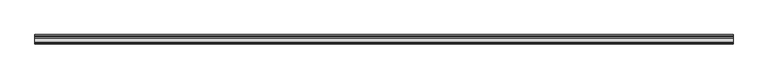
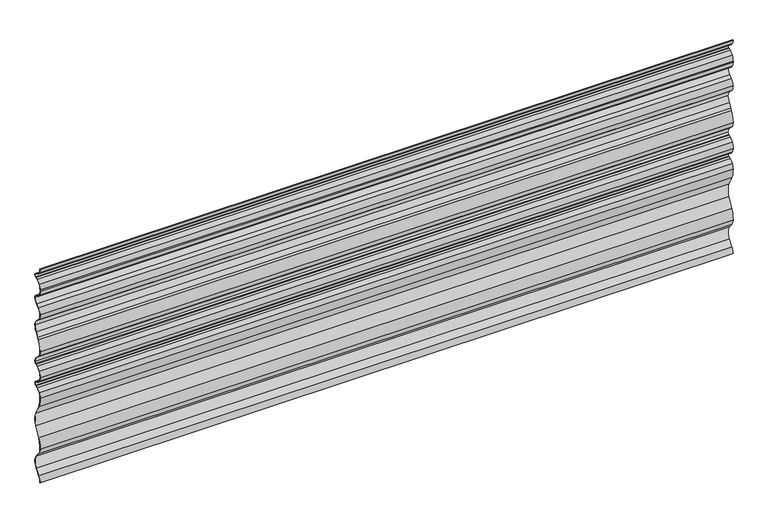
"""IFC4 building model written with IfcOpenShell, lengths in millimetres: plate geometry, Ritmica Horizontal 928 : Ritmica Horizontal 928."""

from ifc_helpers import new_model, si_unit, frame, origin, place, context, project, spatial, polyline, circle_curve, source, transform, mapped, element, save
from ifc_brep_helpers import plane_surface, cylinder_surface, revolved_surface, advanced_brep


def plate_13dd3e1a(model_context):
    return source(origin(), model_context, "Body", "AdvancedBrep", [
        advanced_brep(
        [(-1422.0, 6.5092615, 908.0620129), (-1422.0, 21.2621067, 895.6153968), (-1422.0, 28.45755, 892.7364297), (-1422.0, 31.9226364, 891.0770661), (-1422.0, 31.9284533, 875.0954695), (-1422.0, 28.4645758, 873.4335839), (-1422.0, 21.2712303, 870.5493796), (-1422.0, 6.5274495, 858.0920274), (-1422.0, 0.7421798, 836.9983174), (-1422.0, 0.7421798, 831.6596456), (-1422.0, 6.5447465, 810.5701527), (-1422.0, 21.2975918, 798.1235366), (-1422.0, 28.493035, 795.2445695), (-1422.0, 31.9581214, 793.5852059), (-1422.0, 36.9921573, 785.5962388), (-1422.0, 24.9656186, 760.6206134), (-1422.0, 12.9828956, 751.0704574), (-1422.0, 1.0048783, 728.5919745), (-1422.0, 13.0090533, 701.127971), (-1422.0, 24.9992939, 690.0241978), (-1422.0, 37.0440106, 665.0573339), (-1422.0, 28.6299997, 638.3240963), (-1422.0, 17.4991449, 620.9910926), (-1422.0, 13.1043036, 613.5575548), (-1422.0, 0.921776, 569.3793833), (-1422.0, 12.9259511, 541.9153798), (-1422.0, 24.9161915, 530.8116067), (-1422.0, 36.9609087, 505.8415328), (-1422.0, 31.9326896, 497.8521133), (-1422.0, 28.4688119, 496.1902275), (-1422.0, 21.2754341, 493.3060102), (-1422.0, 6.5316868, 480.8486726), (-1422.0, 0.8337564, 457.0856569), (-1422.0, 6.3430179, 437.5469103), (-1422.0, 21.0958632, 425.1002943), (-1422.0, 28.2913064, 422.2213272), (-1422.0, 31.7563928, 420.5619636), (-1422.0, 31.7622098, 404.580367), (-1422.0, 28.2983323, 402.9184814), (-1422.0, 21.1049867, 400.034277), (-1422.0, 6.361206, 387.5769248), (-1422.0, 0.8661693, 368.0341733), (-1422.0, 10.0476711, 324.2892209), (-1422.0, 30.4443377, 283.7581494), (-1422.0, 30.4639577, 229.8542794), (-1422.0, 10.0968014, 189.3083707), (-1422.0, 0.9471466, 145.5567461), (-1422.0, 9.5590077, 121.7925982), (-1422.0, 28.254799, 99.3683726), (-1422.0, 28.274038, 46.5109184), (-1422.0, 9.5945757, 23.7707747), (-1422.0, 1.0000163, 0.0), (-1422.0, 1.63e-05, 0.0), (-1422.0, 8.826039, 24.4105804), (-1422.0, 27.4885473, 47.1303588), (-1422.0, 27.4697594, 98.7483605), (-1422.0, 8.790937, 121.1522332), (-1422.0, -0.0528427, 145.5386154), (-1422.0, 9.1993025, 189.7494732), (-1422.0, 29.5703625, 230.3031531), (-1422.0, 29.5510695, 283.3086253), (-1422.0, 9.1504935, 323.8474651), (-1422.0, -0.133833, 368.0515751), (-1422.0, 5.5079347, 388.0983921), (-1422.0, 20.7330524, 400.9625361), (-1422.0, 27.895533, 403.834365), (-1422.0, 31.3296428, 405.4819688), (-1422.0, 31.3244823, 419.6600471), (-1422.0, 27.889174, 421.3051505), (-1422.0, 20.7246046, 424.1717647), (-1422.0, 5.4901265, 437.024822), (-1422.0, -0.1662181, 457.0529178), (-1422.0, 5.6750593, 481.3646468), (-1422.0, 20.9034647, 494.2342551), (-1422.0, 28.0660127, 497.1061111), (-1422.0, 31.5001226, 498.7537151), (-1422.0, 35.9609087, 505.841531), (-1422.0, 24.2645169, 530.052163), (-1422.0, 12.2464871, 541.1816709), (-1422.0, -0.0782183, 569.3680226), (-1422.0, 12.2502128, 614.0778463), (-1422.0, 16.6477304, 621.5159109), (-1422.0, 27.7982686, 638.8795656), (-1422.0, 36.04401, 665.0587755), (-1422.0, 24.3475224, 689.2648438), (-1422.0, 12.3295893, 700.3942621), (-1422.0, 0.0048783, 728.5916105), (-1422.0, 12.391292, 751.8777021), (-1422.0, 24.342358, 761.4026277), (-1422.0, 35.9921573, 785.5958749), (-1422.0, 31.5262109, 792.6832895), (-1422.0, 28.0909026, 794.3283929), (-1422.0, 20.9248539, 797.1955989), (-1422.0, 5.6893168, 810.0521734), (-1422.0, -0.2558769, 831.6592816), (-1422.0, -0.2578202, 836.9981365), (-1422.0, 5.6708241, 858.6080051), (-1422.0, 20.8992959, 871.4776387), (-1422.0, 28.0617766, 874.3494676), (-1422.0, 31.4958863, 875.9970713), (-1422.0, 31.4907258, 890.1751497), (-1422.0, 28.0554176, 891.8202531), (-1422.0, 20.8908482, 894.6868673), (-1422.0, 5.6563701, 907.5399245), (-1422.0, 0.0, 927.600395), (-1422.0, 1.0000001, 927.600395), (1422.0, 6.5092615, 908.0620129), (1422.0, 1.0000001, 927.600395), (1422.0, 0.0, 927.600395), (1422.0, 5.6563701, 907.5399245), (1422.0, 20.8908482, 894.6868673), (1422.0, 28.0554176, 891.8202531), (1422.0, 31.4907258, 890.1751497), (1422.0, 31.4958863, 875.9970713), (1422.0, 28.0617766, 874.3494676), (1422.0, 20.8992959, 871.4776387), (1422.0, 5.6708241, 858.6080051), (1422.0, -0.2578202, 836.9981365), (1422.0, -0.2578202, 831.6596456), (1422.0, 5.6893168, 810.0521734), (1422.0, 20.9248539, 797.1955989), (1422.0, 28.0909026, 794.3283929), (1422.0, 31.5262109, 792.6832895), (1422.0, 35.9921573, 785.5958749), (1422.0, 24.342358, 761.4026277), (1422.0, 12.391292, 751.8777021), (1422.0, 0.0048783, 728.5916105), (1422.0, 12.3295893, 700.3942621), (1422.0, 24.3475224, 689.2648438), (1422.0, 36.04401, 665.0587755), (1422.0, 27.7982686, 638.8795656), (1422.0, 16.6477304, 621.5159109), (1422.0, 12.2502128, 614.0778463), (1422.0, -0.0782183, 569.3680226), (1422.0, 12.2464871, 541.1816709), (1422.0, 24.2645169, 530.052163), (1422.0, 35.9609087, 505.841531), (1422.0, 31.5001226, 498.7537151), (1422.0, 28.0660127, 497.1061111), (1422.0, 20.9034647, 494.2342551), (1422.0, 5.6750593, 481.3646468), (1422.0, -0.1662181, 457.0529178), (1422.0, 5.4901265, 437.024822), (1422.0, 20.7246046, 424.1717647), (1422.0, 27.889174, 421.3051505), (1422.0, 31.3244823, 419.6600471), (1422.0, 31.3296428, 405.4819688), (1422.0, 27.895533, 403.834365), (1422.0, 20.7330524, 400.9625361), (1422.0, 5.5079347, 388.0983921), (1422.0, -0.133833, 368.0515751), (1422.0, 9.1504935, 323.8474651), (1422.0, 29.5510695, 283.3086253), (1422.0, 29.5703625, 230.3031531), (1422.0, 9.1993025, 189.7494732), (1422.0, -0.0528427, 145.5386154), (1422.0, 8.790937, 121.1522332), (1422.0, 27.4697594, 98.7483605), (1422.0, 27.4885473, 47.1303588), (1422.0, 8.826039, 24.4105804), (1422.0, 1.63e-05, 0.0), (1422.0, 1.0000163, 0.0), (1422.0, 9.5945757, 23.7707747), (1422.0, 28.274038, 46.5109184), (1422.0, 28.254799, 99.3683726), (1422.0, 9.5590077, 121.7925982), (1422.0, 0.9471466, 145.5567461), (1422.0, 10.0968014, 189.3083707), (1422.0, 30.4639577, 229.8542794), (1422.0, 30.4443377, 283.7581494), (1422.0, 10.0476711, 324.2892209), (1422.0, 0.8661693, 368.0341733), (1422.0, 6.361206, 387.5769248), (1422.0, 21.1049867, 400.034277), (1422.0, 28.2983323, 402.9184814), (1422.0, 31.7622098, 404.580367), (1422.0, 31.7563928, 420.5619636), (1422.0, 28.2913064, 422.2213272), (1422.0, 21.0958632, 425.1002943), (1422.0, 6.3430179, 437.5469103), (1422.0, 0.8337564, 457.0856569), (1422.0, 6.5316868, 480.8486726), (1422.0, 21.2754341, 493.3060102), (1422.0, 28.4688119, 496.1902275), (1422.0, 31.9326896, 497.8521133), (1422.0, 36.9609087, 505.8415328), (1422.0, 24.9161915, 530.8116067), (1422.0, 12.9259511, 541.9153798), (1422.0, 0.921776, 569.3793833), (1422.0, 13.1043036, 613.5575548), (1422.0, 17.4991449, 620.9910926), (1422.0, 28.6299997, 638.3240963), (1422.0, 37.0440106, 665.0573339), (1422.0, 24.9992939, 690.0241978), (1422.0, 13.0090533, 701.127971), (1422.0, 1.0048783, 728.5919745), (1422.0, 12.9828956, 751.0704574), (1422.0, 24.9656186, 760.6206134), (1422.0, 36.9921573, 785.5962388), (1422.0, 31.9581214, 793.5852059), (1422.0, 28.493035, 795.2445695), (1422.0, 21.2975918, 798.1235366), (1422.0, 6.5447465, 810.5701527), (1422.0, 0.744123, 831.6596456), (1422.0, 0.7421798, 836.9983174), (1422.0, 6.5274495, 858.0920274), (1422.0, 21.2712303, 870.5493796), (1422.0, 28.4645758, 873.4335839), (1422.0, 31.9284533, 875.0954695), (1422.0, 31.9226364, 891.0770661), (1422.0, 28.45755, 892.7364297), (1422.0, 21.2621067, 895.6153968)],
        [
            (0, 1, circle_curve(frame((-1422.0, 32.6219637, 924.0466233), z_axis=(1.0, 0.0, 0.0), x_axis=(0.0, 0.0, 1.0)), 30.6166783)),
            (1, 2),
            (2, 3),
            (3, 4, circle_curve(frame((-1422.0, 28.0953282, 883.0848737), z_axis=(-1.0, 0.0, 0.0), x_axis=(0.0, 0.0, 1.0)), 8.8613445)),
            (4, 5),
            (5, 6),
            (6, 7, circle_curve(frame((-1422.0, 32.651781, 842.1264302), z_axis=(1.0, 0.0, 0.0), x_axis=(0.0, 0.0, 1.0)), 30.6166783)),
            (7, 8, circle_curve(frame((-1422.0, 42.034972, 837.0133472), z_axis=(1.0, 0.0, 0.0), x_axis=(0.0, 0.0, 1.0)), 41.2927949)),
            (8, 9),
            (9, 10, circle_curve(frame((-1422.0, 42.0369151, 831.6746753), z_axis=(1.0, 0.0, 0.0), x_axis=(0.0, 0.0, 1.0)), 41.2927949)),
            (10, 11, circle_curve(frame((-1422.0, 32.8606059, 826.7955631), z_axis=(1.0, 0.0, 0.0), x_axis=(0.0, 0.0, 1.0)), 30.9158276)),
            (11, 12),
            (12, 13),
            (13, 14, circle_curve(frame((-1422.0, 28.1308133, 785.5930135), z_axis=(-1.0, 0.0, 0.0), x_axis=(0.0, 0.0, 1.0)), 8.8613445)),
            (14, 15, circle_curve(frame((-1422.0, 5.0694602, 785.5846196), z_axis=(-1.0, 0.0, 0.0), x_axis=(0.0, 0.0, 1.0)), 31.9226992)),
            (15, 16),
            (16, 17, circle_curve(frame((-1422.0, 28.0674647, 728.6018247), z_axis=(1.0, 0.0, 0.0), x_axis=(0.0, 0.0, 1.0)), 27.0625882)),
            (17, 18, circle_curve(frame((-1422.0, 38.4552002, 728.6056057), z_axis=(1.0, 0.0, 0.0), x_axis=(0.0, 0.0, 1.0)), 37.4503244)),
            (18, 19),
            (19, 20, circle_curve(frame((-1422.0, 5.1213136, 665.0457146), z_axis=(-1.0, 0.0, 0.0), x_axis=(0.0, 0.0, 1.0)), 31.9226992)),
            (20, 21, circle_curve(frame((-1422.0, -10.1198118, 665.2109304), z_axis=(-1.0, 0.0, 0.0), x_axis=(0.0, 0.0, 1.0)), 47.1640725)),
            (21, 22),
            (22, 23),
            (23, 24, circle_curve(frame((-1422.0, 80.6713796, 571.1565204), z_axis=(1.0, 0.0, 0.0), x_axis=(0.0, 0.0, 1.0)), 79.769402)),
            (24, 25, circle_curve(frame((-1422.0, 38.372098, 569.3930144), z_axis=(1.0, 0.0, 0.0), x_axis=(0.0, 0.0, 1.0)), 37.4503244)),
            (25, 26),
            (26, 27, circle_curve(frame((-1422.0, 5.0555271, 505.8414768), z_axis=(-1.0, 0.0, 0.0), x_axis=(0.0, 0.0, 1.0)), 31.9053816)),
            (27, 28, circle_curve(frame((-1422.0, 28.0995643, 505.8415173), z_axis=(-1.0, 0.0, 0.0), x_axis=(0.0, 0.0, 1.0)), 8.8613444)),
            (28, 29),
            (29, 30),
            (30, 31, circle_curve(frame((-1422.0, 32.6560172, 464.8830737), z_axis=(1.0, 0.0, 0.0), x_axis=(0.0, 0.0, 1.0)), 30.6166783)),
            (31, 32, circle_curve(frame((-1422.0, 42.0392082, 459.7699907), z_axis=(1.0, 0.0, 0.0), x_axis=(0.0, 0.0, 1.0)), 41.2927948)),
            (32, 33, circle_curve(frame((-1422.0, 38.2840783, 457.0992876), z_axis=(1.0, 0.0, 0.0), x_axis=(0.0, 0.0, 1.0)), 37.4503244)),
            (33, 34, circle_curve(frame((-1422.0, 32.4557202, 453.5315208), z_axis=(1.0, 0.0, 0.0), x_axis=(0.0, 0.0, 1.0)), 30.6166783)),
            (34, 35),
            (35, 36),
            (36, 37, circle_curve(frame((-1422.0, 27.9290847, 412.5697711), z_axis=(-1.0, 0.0, 0.0), x_axis=(0.0, 0.0, 1.0)), 8.8613445)),
            (37, 38),
            (38, 39),
            (39, 40, circle_curve(frame((-1422.0, 32.4855375, 371.6113276), z_axis=(1.0, 0.0, 0.0), x_axis=(0.0, 0.0, 1.0)), 30.6166783)),
            (40, 41, circle_curve(frame((-1422.0, 38.3164913, 368.0478045), z_axis=(1.0, 0.0, 0.0), x_axis=(0.0, 0.0, 1.0)), 37.4503244)),
            (41, 42, circle_curve(frame((-1422.0, 94.1023268, 364.7672254), z_axis=(1.0, 0.0, 0.0), x_axis=(0.0, 0.0, 1.0)), 93.293376)),
            (42, 43),
            (43, 44, circle_curve(frame((-1422.0, -23.1517542, 256.7867029), z_axis=(-1.0, 0.0, 0.0), x_axis=(0.0, 0.0, 1.0)), 60.0)),
            (44, 45),
            (45, 46, circle_curve(frame((-1422.0, 94.1809012, 148.8915653), z_axis=(1.0, 0.0, 0.0), x_axis=(0.0, 0.0, 1.0)), 93.293376)),
            (46, 47, circle_curve(frame((-1422.0, 38.0785645, 145.5702612), z_axis=(1.0, 0.0, 0.0), x_axis=(0.0, 0.0, 1.0)), 37.1314203)),
            (47, 48),
            (48, 49, circle_curve(frame((-1422.0, -7.0897542, 72.9267773), z_axis=(-1.0, 0.0, 0.0), x_axis=(0.0, 0.0, 1.0)), 44.1406321)),
            (49, 50),
            (50, 51, circle_curve(frame((-1422.0, 38.131434, 0.0138791), z_axis=(1.0, 0.0, 0.0), x_axis=(0.0, 0.0, 1.0)), 37.1314203)),
            (51, 52),
            (52, 53, circle_curve(frame((-1422.0, 38.131434, 0.0138791), z_axis=(-1.0, 0.0, 0.0), x_axis=(0.0, 0.0, 1.0)), 38.1314203)),
            (53, 54),
            (54, 55, circle_curve(frame((-1422.0, -7.0897542, 72.9267773), z_axis=(1.0, 0.0, 0.0), x_axis=(0.0, 0.0, 1.0)), 43.1406321)),
            (55, 56),
            (56, 57, circle_curve(frame((-1422.0, 38.0785645, 145.5702612), z_axis=(-1.0, 0.0, 0.0), x_axis=(0.0, 0.0, 1.0)), 38.1314203)),
            (57, 58, circle_curve(frame((-1422.0, 94.1809012, 148.8915653), z_axis=(-1.0, 0.0, 0.0), x_axis=(0.0, 0.0, 1.0)), 94.293376)),
            (58, 59),
            (59, 60, circle_curve(frame((-1422.0, -23.1517542, 256.7867029), z_axis=(1.0, 0.0, 0.0), x_axis=(0.0, 0.0, 1.0)), 59.0)),
            (60, 61),
            (61, 62, circle_curve(frame((-1422.0, 94.1023268, 364.7672254), z_axis=(-1.0, 0.0, 0.0), x_axis=(0.0, 0.0, 1.0)), 94.293376)),
            (62, 63, circle_curve(frame((-1422.0, 38.3164913, 368.0478045), z_axis=(-1.0, 0.0, 0.0), x_axis=(0.0, 0.0, 1.0)), 38.4503244)),
            (63, 64, circle_curve(frame((-1422.0, 32.4855375, 371.6113276), z_axis=(-1.0, 0.0, 0.0), x_axis=(0.0, 0.0, 1.0)), 31.6166783)),
            (64, 65),
            (65, 66),
            (66, 67, circle_curve(frame((-1422.0, 27.9290847, 412.5697711), z_axis=(1.0, 0.0, 0.0), x_axis=(0.0, 0.0, 1.0)), 7.8613445)),
            (67, 68),
            (68, 69),
            (69, 70, circle_curve(frame((-1422.0, 32.4557202, 453.5315208), z_axis=(-1.0, 0.0, 0.0), x_axis=(0.0, 0.0, 1.0)), 31.6166783)),
            (70, 71, circle_curve(frame((-1422.0, 38.2840783, 457.0992876), z_axis=(-1.0, 0.0, 0.0), x_axis=(0.0, 0.0, 1.0)), 38.4503244)),
            (71, 72, circle_curve(frame((-1422.0, 42.0392082, 459.7699907), z_axis=(-1.0, 0.0, 0.0), x_axis=(0.0, 0.0, 1.0)), 42.2927948)),
            (72, 73, circle_curve(frame((-1422.0, 32.6560172, 464.8830737), z_axis=(-1.0, 0.0, 0.0), x_axis=(0.0, 0.0, 1.0)), 31.6166782)),
            (73, 74),
            (74, 75),
            (75, 76, circle_curve(frame((-1422.0, 28.0995643, 505.8415173), z_axis=(1.0, 0.0, 0.0), x_axis=(0.0, 0.0, 1.0)), 7.8613444)),
            (76, 77, circle_curve(frame((-1422.0, 5.0555271, 505.8414768), z_axis=(1.0, 0.0, 0.0), x_axis=(0.0, 0.0, 1.0)), 30.9053816)),
            (77, 78),
            (78, 79, circle_curve(frame((-1422.0, 38.372098, 569.3930144), z_axis=(-1.0, 0.0, 0.0), x_axis=(0.0, 0.0, 1.0)), 38.4503244)),
            (79, 80, circle_curve(frame((-1422.0, 80.6713796, 571.1565204), z_axis=(-1.0, 0.0, 0.0), x_axis=(0.0, 0.0, 1.0)), 80.769402)),
            (80, 81),
            (81, 82),
            (82, 83, circle_curve(frame((-1422.0, -10.1198118, 665.2109304), z_axis=(1.0, 0.0, 0.0), x_axis=(0.0, 0.0, 1.0)), 46.1640725)),
            (83, 84, circle_curve(frame((-1422.0, 5.1213136, 665.0457146), z_axis=(1.0, 0.0, 0.0), x_axis=(0.0, 0.0, 1.0)), 30.9226992)),
            (84, 85),
            (85, 86, circle_curve(frame((-1422.0, 38.4552002, 728.6056057), z_axis=(-1.0, 0.0, 0.0), x_axis=(0.0, 0.0, 1.0)), 38.4503244)),
            (86, 87, circle_curve(frame((-1422.0, 28.0674647, 728.6018247), z_axis=(-1.0, 0.0, 0.0), x_axis=(0.0, 0.0, 1.0)), 28.0625882)),
            (87, 88),
            (88, 89, circle_curve(frame((-1422.0, 5.0694602, 785.5846196), z_axis=(1.0, 0.0, 0.0), x_axis=(0.0, 0.0, 1.0)), 30.9226992)),
            (89, 90, circle_curve(frame((-1422.0, 28.1308133, 785.5930135), z_axis=(1.0, 0.0, 0.0), x_axis=(0.0, 0.0, 1.0)), 7.8613445)),
            (90, 91),
            (91, 92),
            (92, 93, circle_curve(frame((-1422.0, 32.8606059, 826.7955631), z_axis=(-1.0, 0.0, 0.0), x_axis=(0.0, 0.0, 1.0)), 31.9158276)),
            (93, 94, circle_curve(frame((-1422.0, 42.0369151, 831.6746753), z_axis=(-1.0, 0.0, 0.0), x_axis=(0.0, 0.0, 1.0)), 42.2927949)),
            (94, 95),
            (95, 96, circle_curve(frame((-1422.0, 42.034972, 837.0133472), z_axis=(-1.0, 0.0, 0.0), x_axis=(0.0, 0.0, 1.0)), 42.2927949)),
            (96, 97, circle_curve(frame((-1422.0, 32.651781, 842.1264302), z_axis=(-1.0, 0.0, 0.0), x_axis=(0.0, 0.0, 1.0)), 31.6166783)),
            (97, 98),
            (98, 99),
            (99, 100, circle_curve(frame((-1422.0, 28.0953282, 883.0848737), z_axis=(1.0, 0.0, 0.0), x_axis=(0.0, 0.0, 1.0)), 7.8613445)),
            (100, 101),
            (101, 102),
            (102, 103, circle_curve(frame((-1422.0, 32.6219637, 924.0466233), z_axis=(-1.0, 0.0, 0.0), x_axis=(0.0, 0.0, 1.0)), 31.6166783)),
            (103, 104, circle_curve(frame((-1422.0, 38.4503219, 927.6143902), z_axis=(-1.0, 0.0, 0.0), x_axis=(0.0, 0.0, 1.0)), 38.4503244)),
            (104, 105),
            (105, 0, circle_curve(frame((-1422.0, 38.4503219, 927.6143902), z_axis=(1.0, 0.0, 0.0), x_axis=(0.0, 0.0, 1.0)), 37.4503244)),
            (106, 107, circle_curve(frame((1422.0, 38.4503219, 927.6143902), z_axis=(-1.0, 0.0, 0.0), x_axis=(0.0, 0.0, 1.0)), 37.4503244)),
            (107, 108),
            (108, 109, circle_curve(frame((1422.0, 38.4503219, 927.6143902), z_axis=(1.0, 0.0, 0.0), x_axis=(0.0, 0.0, 1.0)), 38.4503244)),
            (109, 110, circle_curve(frame((1422.0, 32.6219637, 924.0466233), z_axis=(1.0, 0.0, 0.0), x_axis=(0.0, 0.0, 1.0)), 31.6166783)),
            (110, 111),
            (111, 112),
            (112, 113, circle_curve(frame((1422.0, 28.0953282, 883.0848737), z_axis=(-1.0, 0.0, 0.0), x_axis=(0.0, 0.0, 1.0)), 7.8613445)),
            (113, 114),
            (114, 115),
            (115, 116, circle_curve(frame((1422.0, 32.651781, 842.1264302), z_axis=(1.0, 0.0, 0.0), x_axis=(0.0, 0.0, 1.0)), 31.6166783)),
            (116, 117, circle_curve(frame((1422.0, 42.034972, 837.0133472), z_axis=(1.0, 0.0, 0.0), x_axis=(0.0, 0.0, 1.0)), 42.2927949)),
            (117, 118),
            (118, 119, circle_curve(frame((1422.0, 42.0369151, 831.6746753), z_axis=(1.0, 0.0, 0.0), x_axis=(0.0, 0.0, 1.0)), 42.2927949)),
            (119, 120, circle_curve(frame((1422.0, 32.8606059, 826.7955631), z_axis=(1.0, 0.0, 0.0), x_axis=(0.0, 0.0, 1.0)), 31.9158276)),
            (120, 121),
            (121, 122),
            (122, 123, circle_curve(frame((1422.0, 28.1308133, 785.5930135), z_axis=(-1.0, 0.0, 0.0), x_axis=(0.0, 0.0, 1.0)), 7.8613445)),
            (123, 124, circle_curve(frame((1422.0, 5.0694602, 785.5846196), z_axis=(-1.0, 0.0, 0.0), x_axis=(0.0, 0.0, 1.0)), 30.9226992)),
            (124, 125),
            (125, 126, circle_curve(frame((1422.0, 28.0674647, 728.6018247), z_axis=(1.0, 0.0, 0.0), x_axis=(0.0, 0.0, 1.0)), 28.0625882)),
            (126, 127, circle_curve(frame((1422.0, 38.4552002, 728.6056057), z_axis=(1.0, 0.0, 0.0), x_axis=(0.0, 0.0, 1.0)), 38.4503244)),
            (127, 128),
            (128, 129, circle_curve(frame((1422.0, 5.1213136, 665.0457146), z_axis=(-1.0, 0.0, 0.0), x_axis=(0.0, 0.0, 1.0)), 30.9226992)),
            (129, 130, circle_curve(frame((1422.0, -10.1198118, 665.2109304), z_axis=(-1.0, 0.0, 0.0), x_axis=(0.0, 0.0, 1.0)), 46.1640725)),
            (130, 131),
            (131, 132),
            (132, 133, circle_curve(frame((1422.0, 80.6713796, 571.1565204), z_axis=(1.0, 0.0, 0.0), x_axis=(0.0, 0.0, 1.0)), 80.769402)),
            (133, 134, circle_curve(frame((1422.0, 38.372098, 569.3930144), z_axis=(1.0, 0.0, 0.0), x_axis=(0.0, 0.0, 1.0)), 38.4503244)),
            (134, 135),
            (135, 136, circle_curve(frame((1422.0, 5.0555271, 505.8414768), z_axis=(-1.0, 0.0, 0.0), x_axis=(0.0, 0.0, 1.0)), 30.9053816)),
            (136, 137, circle_curve(frame((1422.0, 28.0995643, 505.8415173), z_axis=(-1.0, 0.0, 0.0), x_axis=(0.0, 0.0, 1.0)), 7.8613444)),
            (137, 138),
            (138, 139),
            (139, 140, circle_curve(frame((1422.0, 32.6560172, 464.8830737), z_axis=(1.0, 0.0, 0.0), x_axis=(0.0, 0.0, 1.0)), 31.6166782)),
            (140, 141, circle_curve(frame((1422.0, 42.0392082, 459.7699907), z_axis=(1.0, 0.0, 0.0), x_axis=(0.0, 0.0, 1.0)), 42.2927948)),
            (141, 142, circle_curve(frame((1422.0, 38.2840783, 457.0992876), z_axis=(1.0, 0.0, 0.0), x_axis=(0.0, 0.0, 1.0)), 38.4503244)),
            (142, 143, circle_curve(frame((1422.0, 32.4557202, 453.5315208), z_axis=(1.0, 0.0, 0.0), x_axis=(0.0, 0.0, 1.0)), 31.6166783)),
            (143, 144),
            (144, 145),
            (145, 146, circle_curve(frame((1422.0, 27.9290847, 412.5697711), z_axis=(-1.0, 0.0, 0.0), x_axis=(0.0, 0.0, 1.0)), 7.8613445)),
            (146, 147),
            (147, 148),
            (148, 149, circle_curve(frame((1422.0, 32.4855375, 371.6113276), z_axis=(1.0, 0.0, 0.0), x_axis=(0.0, 0.0, 1.0)), 31.6166783)),
            (149, 150, circle_curve(frame((1422.0, 38.3164913, 368.0478045), z_axis=(1.0, 0.0, 0.0), x_axis=(0.0, 0.0, 1.0)), 38.4503244)),
            (150, 151, circle_curve(frame((1422.0, 94.1023268, 364.7672254), z_axis=(1.0, 0.0, 0.0), x_axis=(0.0, 0.0, 1.0)), 94.293376)),
            (151, 152),
            (152, 153, circle_curve(frame((1422.0, -23.1517542, 256.7867029), z_axis=(-1.0, 0.0, 0.0), x_axis=(0.0, 0.0, 1.0)), 59.0)),
            (153, 154),
            (154, 155, circle_curve(frame((1422.0, 94.1809012, 148.8915653), z_axis=(1.0, 0.0, 0.0), x_axis=(0.0, 0.0, 1.0)), 94.293376)),
            (155, 156, circle_curve(frame((1422.0, 38.0785645, 145.5702612), z_axis=(1.0, 0.0, 0.0), x_axis=(0.0, 0.0, 1.0)), 38.1314203)),
            (156, 157),
            (157, 158, circle_curve(frame((1422.0, -7.0897542, 72.9267773), z_axis=(-1.0, 0.0, 0.0), x_axis=(0.0, 0.0, 1.0)), 43.1406321)),
            (158, 159),
            (159, 160, circle_curve(frame((1422.0, 38.131434, 0.0138791), z_axis=(1.0, 0.0, 0.0), x_axis=(0.0, 0.0, 1.0)), 38.1314203)),
            (160, 161),
            (161, 162, circle_curve(frame((1422.0, 38.131434, 0.0138791), z_axis=(-1.0, 0.0, 0.0), x_axis=(0.0, 0.0, 1.0)), 37.1314203)),
            (162, 163),
            (163, 164, circle_curve(frame((1422.0, -7.0897542, 72.9267773), z_axis=(1.0, 0.0, 0.0), x_axis=(0.0, 0.0, 1.0)), 44.1406321)),
            (164, 165),
            (165, 166, circle_curve(frame((1422.0, 38.0785645, 145.5702612), z_axis=(-1.0, 0.0, 0.0), x_axis=(0.0, 0.0, 1.0)), 37.1314203)),
            (166, 167, circle_curve(frame((1422.0, 94.1809012, 148.8915653), z_axis=(-1.0, 0.0, 0.0), x_axis=(0.0, 0.0, 1.0)), 93.293376)),
            (167, 168),
            (168, 169, circle_curve(frame((1422.0, -23.1517542, 256.7867029), z_axis=(1.0, 0.0, 0.0), x_axis=(0.0, 0.0, 1.0)), 60.0)),
            (169, 170),
            (170, 171, circle_curve(frame((1422.0, 94.1023268, 364.7672254), z_axis=(-1.0, 0.0, 0.0), x_axis=(0.0, 0.0, 1.0)), 93.293376)),
            (171, 172, circle_curve(frame((1422.0, 38.3164913, 368.0478045), z_axis=(-1.0, 0.0, 0.0), x_axis=(0.0, 0.0, 1.0)), 37.4503244)),
            (172, 173, circle_curve(frame((1422.0, 32.4855375, 371.6113276), z_axis=(-1.0, 0.0, 0.0), x_axis=(0.0, 0.0, 1.0)), 30.6166783)),
            (173, 174),
            (174, 175),
            (175, 176, circle_curve(frame((1422.0, 27.9290847, 412.5697711), z_axis=(1.0, 0.0, 0.0), x_axis=(0.0, 0.0, 1.0)), 8.8613445)),
            (176, 177),
            (177, 178),
            (178, 179, circle_curve(frame((1422.0, 32.4557202, 453.5315208), z_axis=(-1.0, 0.0, 0.0), x_axis=(0.0, 0.0, 1.0)), 30.6166783)),
            (179, 180, circle_curve(frame((1422.0, 38.2840783, 457.0992876), z_axis=(-1.0, 0.0, 0.0), x_axis=(0.0, 0.0, 1.0)), 37.4503244)),
            (180, 181, circle_curve(frame((1422.0, 42.0392082, 459.7699907), z_axis=(-1.0, 0.0, 0.0), x_axis=(0.0, 0.0, 1.0)), 41.2927948)),
            (181, 182, circle_curve(frame((1422.0, 32.6560172, 464.8830737), z_axis=(-1.0, 0.0, 0.0), x_axis=(0.0, 0.0, 1.0)), 30.6166783)),
            (182, 183),
            (183, 184),
            (184, 185, circle_curve(frame((1422.0, 28.0995643, 505.8415173), z_axis=(1.0, 0.0, 0.0), x_axis=(0.0, 0.0, 1.0)), 8.8613444)),
            (185, 186, circle_curve(frame((1422.0, 5.0555271, 505.8414768), z_axis=(1.0, 0.0, 0.0), x_axis=(0.0, 0.0, 1.0)), 31.9053816)),
            (186, 187),
            (187, 188, circle_curve(frame((1422.0, 38.372098, 569.3930144), z_axis=(-1.0, 0.0, 0.0), x_axis=(0.0, 0.0, 1.0)), 37.4503244)),
            (188, 189, circle_curve(frame((1422.0, 80.6713796, 571.1565204), z_axis=(-1.0, 0.0, 0.0), x_axis=(0.0, 0.0, 1.0)), 79.769402)),
            (189, 190),
            (190, 191),
            (191, 192, circle_curve(frame((1422.0, -10.1198118, 665.2109304), z_axis=(1.0, 0.0, 0.0), x_axis=(0.0, 0.0, 1.0)), 47.1640725)),
            (192, 193, circle_curve(frame((1422.0, 5.1213136, 665.0457146), z_axis=(1.0, 0.0, 0.0), x_axis=(0.0, 0.0, 1.0)), 31.9226992)),
            (193, 194),
            (194, 195, circle_curve(frame((1422.0, 38.4552002, 728.6056057), z_axis=(-1.0, 0.0, 0.0), x_axis=(0.0, 0.0, 1.0)), 37.4503244)),
            (195, 196, circle_curve(frame((1422.0, 28.0674647, 728.6018247), z_axis=(-1.0, 0.0, 0.0), x_axis=(0.0, 0.0, 1.0)), 27.0625882)),
            (196, 197),
            (197, 198, circle_curve(frame((1422.0, 5.0694602, 785.5846196), z_axis=(1.0, 0.0, 0.0), x_axis=(0.0, 0.0, 1.0)), 31.9226992)),
            (198, 199, circle_curve(frame((1422.0, 28.1308133, 785.5930135), z_axis=(1.0, 0.0, 0.0), x_axis=(0.0, 0.0, 1.0)), 8.8613445)),
            (199, 200),
            (200, 201),
            (201, 202, circle_curve(frame((1422.0, 32.8606059, 826.7955631), z_axis=(-1.0, 0.0, 0.0), x_axis=(0.0, 0.0, 1.0)), 30.9158276)),
            (202, 203, circle_curve(frame((1422.0, 42.0369151, 831.6746753), z_axis=(-1.0, 0.0, 0.0), x_axis=(0.0, 0.0, 1.0)), 41.2927949)),
            (203, 204),
            (204, 205, circle_curve(frame((1422.0, 42.034972, 837.0133472), z_axis=(-1.0, 0.0, 0.0), x_axis=(0.0, 0.0, 1.0)), 41.2927949)),
            (205, 206, circle_curve(frame((1422.0, 32.651781, 842.1264302), z_axis=(-1.0, 0.0, 0.0), x_axis=(0.0, 0.0, 1.0)), 30.6166783)),
            (206, 207),
            (207, 208),
            (208, 209, circle_curve(frame((1422.0, 28.0953282, 883.0848737), z_axis=(1.0, 0.0, 0.0), x_axis=(0.0, 0.0, 1.0)), 8.8613445)),
            (209, 210),
            (210, 211),
            (211, 106, circle_curve(frame((1422.0, 32.6219637, 924.0466233), z_axis=(-1.0, 0.0, 0.0), x_axis=(0.0, 0.0, 1.0)), 30.6166783)),
            (0, 106),
            (211, 1),
            (210, 2),
            (209, 3),
            (208, 4),
            (207, 5),
            (206, 6),
            (205, 7),
            (204, 8),
            (203, 9),
            (202, 10),
            (201, 11),
            (200, 12),
            (199, 13),
            (198, 14),
            (197, 15),
            (196, 16),
            (195, 17),
            (194, 18),
            (193, 19),
            (192, 20),
            (191, 21),
            (190, 22),
            (189, 23),
            (188, 24),
            (187, 25),
            (186, 26),
            (185, 27),
            (184, 28),
            (183, 29),
            (182, 30),
            (181, 31),
            (180, 32),
            (179, 33),
            (178, 34),
            (177, 35),
            (176, 36),
            (175, 37),
            (174, 38),
            (173, 39),
            (172, 40),
            (171, 41),
            (170, 42),
            (169, 43),
            (168, 44),
            (167, 45),
            (166, 46),
            (165, 47),
            (164, 48),
            (163, 49),
            (162, 50),
            (161, 51),
            (160, 52),
            (159, 53),
            (158, 54),
            (157, 55),
            (156, 56),
            (155, 57),
            (154, 58),
            (153, 59),
            (152, 60),
            (151, 61),
            (150, 62),
            (149, 63),
            (148, 64),
            (147, 65),
            (146, 66),
            (145, 67),
            (144, 68),
            (143, 69),
            (142, 70),
            (141, 71),
            (140, 72),
            (139, 73),
            (138, 74),
            (137, 75),
            (136, 76),
            (135, 77),
            (134, 78),
            (133, 79),
            (132, 80),
            (131, 81),
            (130, 82),
            (129, 83),
            (128, 84),
            (127, 85),
            (126, 86),
            (125, 87),
            (124, 88),
            (123, 89),
            (122, 90),
            (121, 91),
            (120, 92),
            (119, 93),
            (118, 94),
            (117, 95),
            (116, 96),
            (115, 97),
            (114, 98),
            (113, 99),
            (112, 100),
            (111, 101),
            (110, 102),
            (109, 103),
            (108, 104),
            (107, 105),
        ],
        [
            plane_surface(frame((-1422.0, 32.6219637, 954.6633016), z_axis=(-1.0, 0.0, 0.0), x_axis=(0.0, -1.0, 0.0))),
            plane_surface(frame((1422.0, 32.6219637, 954.6633016), z_axis=(1.0, 0.0, 0.0), x_axis=(0.0, 1.0, 0.0))),
            revolved_surface(polyline([(1422.0, 32.6219637, 954.6633016), (-1422.0, 32.6219637, 954.6633016)]), (1422.0, 32.6219637, 924.0466233), (1.0, 0.0, 0.0)),
            plane_surface(frame((-1422.0, 21.2621067, 895.6153968), z_axis=(0.0, 0.3714785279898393, 0.9284415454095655), x_axis=(1.0, 0.0, 0.0))),
            plane_surface(frame((-1422.0, 28.45755, 892.7364297), z_axis=(0.0, 0.43191054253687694, 0.9019164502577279), x_axis=(1.0, 0.0, 0.0))),
            cylinder_surface(frame((1422.0, 28.0953282, 883.0848737), z_axis=(-1.0, 0.0, 0.0), x_axis=(0.0, 0.0, 1.0)), 8.8613445),
            plane_surface(frame((-1422.0, 31.9284533, 875.0954695), z_axis=(0.0, 0.43256698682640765, -0.9016017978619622), x_axis=(1.0, 0.0, 0.0))),
            plane_surface(frame((-1422.0, 28.4645758, 873.4335839), z_axis=(0.0, 0.3721542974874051, -0.928170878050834), x_axis=(1.0, 0.0, 0.0))),
            revolved_surface(polyline([(1422.0, 32.651781, 872.7431085), (-1422.0, 32.651781, 872.7431085)]), (1422.0, 32.651781, 842.1264302), (1.0, 0.0, 0.0)),
            revolved_surface(polyline([(1422.0, 42.034972, 878.3061421), (-1422.0, 42.034972, 878.3061421)]), (1422.0, 42.034972, 837.0133472), (1.0, 0.0, 0.0)),
            plane_surface(frame((-1422.0, 0.7421798, 836.9983174), z_axis=(0.0, 1.0, 0.0), x_axis=(1.0, 0.0, 0.0))),
            revolved_surface(polyline([(1422.0, 42.0369151, 872.9674702), (-1422.0, 42.0369151, 872.9674702)]), (1422.0, 42.0369151, 831.6746753), (1.0, 0.0, 0.0)),
            revolved_surface(polyline([(1422.0, 32.8606059, 857.7113907), (-1422.0, 32.8606059, 857.7113907)]), (1422.0, 32.8606059, 826.7955631), (1.0, 0.0, 0.0)),
            plane_surface(frame((-1422.0, 21.2975918, 798.1235366), z_axis=(0.0, 0.3714785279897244, 0.9284415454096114), x_axis=(1.0, 0.0, 0.0))),
            plane_surface(frame((-1422.0, 28.493035, 795.2445695), z_axis=(0.0, 0.4319105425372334, 0.9019164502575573), x_axis=(1.0, 0.0, 0.0))),
            cylinder_surface(frame((1422.0, 28.1308133, 785.5930135), z_axis=(-1.0, 0.0, 0.0), x_axis=(0.0, 0.0, 1.0)), 8.8613445),
            cylinder_surface(frame((1422.0, 5.0694602, 785.5846196), z_axis=(-1.0, 0.0, 0.0), x_axis=(0.0, 0.0, 1.0)), 31.9226992),
            plane_surface(frame((-1422.0, 24.9656186, 760.6206134), z_axis=(0.0, 0.6232605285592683, -0.7820142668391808), x_axis=(1.0, 0.0, 0.0))),
            revolved_surface(polyline([(1422.0, 28.0674647, 755.6644129), (-1422.0, 28.0674647, 755.6644129)]), (1422.0, 28.0674647, 728.6018247), (1.0, 0.0, 0.0)),
            revolved_surface(polyline([(1422.0, 38.4552002, 766.0559301), (-1422.0, 38.4552002, 766.0559301)]), (1422.0, 38.4552002, 728.6056057), (1.0, 0.0, 0.0)),
            plane_surface(frame((-1422.0, 13.0090533, 701.127971), z_axis=(0.0, 0.6794639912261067, 0.7337088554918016), x_axis=(1.0, 0.0, 0.0))),
            cylinder_surface(frame((1422.0, 5.1213136, 665.0457146), z_axis=(-1.0, 0.0, 0.0), x_axis=(0.0, 0.0, 1.0)), 31.9226992),
            cylinder_surface(frame((1422.0, -10.1198118, 665.2109304), z_axis=(-1.0, 0.0, 0.0), x_axis=(0.0, 0.0, 1.0)), 47.1640725),
            plane_surface(frame((-1422.0, 28.6299997, 638.3240963), z_axis=(0.0, 0.8414387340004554, -0.5403525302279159), x_axis=(1.0, 0.0, 0.0))),
            plane_surface(frame((-1422.0, 17.4991449, 620.9910926), z_axis=(0.0, 0.8608100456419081, -0.5089263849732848), x_axis=(1.0, 0.0, 0.0))),
            revolved_surface(polyline([(1422.0, 80.6713796, 650.9259224), (-1422.0, 80.6713796, 650.9259224)]), (1422.0, 80.6713796, 571.1565204), (1.0, 0.0, 0.0)),
            revolved_surface(polyline([(1422.0, 38.372098, 606.8433388), (-1422.0, 38.372098, 606.8433388)]), (1422.0, 38.372098, 569.3930144), (1.0, 0.0, 0.0)),
            plane_surface(frame((-1422.0, 12.9259511, 541.9153798), z_axis=(0.0, 0.6794639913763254, 0.7337088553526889), x_axis=(1.0, 0.0, 0.0))),
            cylinder_surface(frame((1422.0, 5.0555271, 505.8414768), z_axis=(-1.0, 0.0, 0.0), x_axis=(0.0, 0.0, 1.0)), 31.9053816),
            cylinder_surface(frame((1422.0, 28.0995643, 505.8415173), z_axis=(-1.0, 0.0, 0.0), x_axis=(0.0, 0.0, 1.0)), 8.8613444),
            plane_surface(frame((-1422.0, 31.9326896, 497.8521133), z_axis=(0.0, 0.43256701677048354, -0.9016017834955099), x_axis=(1.0, 0.0, 0.0))),
            plane_surface(frame((-1422.0, 28.4688119, 496.1902275), z_axis=(0.0, 0.37215430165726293, -0.9281708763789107), x_axis=(1.0, 0.0, 0.0))),
            revolved_surface(polyline([(1422.0, 32.6560172, 495.499752), (-1422.0, 32.6560172, 495.499752)]), (1422.0, 32.6560172, 464.8830737), (1.0, 0.0, 0.0)),
            revolved_surface(polyline([(1422.0, 42.0392082, 501.0627855), (-1422.0, 42.0392082, 501.0627855)]), (1422.0, 42.0392082, 459.7699907), (1.0, 0.0, 0.0)),
            revolved_surface(polyline([(1422.0, 38.2840783, 494.549612), (-1422.0, 38.2840783, 494.549612)]), (1422.0, 38.2840783, 457.0992876), (1.0, 0.0, 0.0)),
            revolved_surface(polyline([(1422.0, 32.4557202, 484.1481991), (-1422.0, 32.4557202, 484.1481991)]), (1422.0, 32.4557202, 453.5315208), (1.0, 0.0, 0.0)),
            plane_surface(frame((-1422.0, 21.0958632, 425.1002943), z_axis=(0.0, 0.3714785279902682, 0.9284415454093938), x_axis=(1.0, 0.0, 0.0))),
            plane_surface(frame((-1422.0, 28.2913064, 422.2213272), z_axis=(0.0, 0.43191054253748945, 0.9019164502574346), x_axis=(1.0, 0.0, 0.0))),
            cylinder_surface(frame((1422.0, 27.9290847, 412.5697711), z_axis=(-1.0, 0.0, 0.0), x_axis=(0.0, 0.0, 1.0)), 8.8613445),
            plane_surface(frame((-1422.0, 31.7622098, 404.580367), z_axis=(0.0, 0.432566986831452, -0.901601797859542), x_axis=(1.0, 0.0, 0.0))),
            plane_surface(frame((-1422.0, 28.2983323, 402.9184814), z_axis=(0.0, 0.3721542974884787, -0.9281708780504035), x_axis=(1.0, 0.0, 0.0))),
            revolved_surface(polyline([(1422.0, 32.4855375, 402.22800589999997), (-1422.0, 32.4855375, 402.22800589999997)]), (1422.0, 32.4855375, 371.6113276), (1.0, 0.0, 0.0)),
            revolved_surface(polyline([(1422.0, 38.3164913, 405.4981289), (-1422.0, 38.3164913, 405.4981289)]), (1422.0, 38.3164913, 368.0478045), (1.0, 0.0, 0.0)),
            revolved_surface(polyline([(1422.0, 94.1023268, 458.0606014), (-1422.0, 94.1023268, 458.0606014)]), (1422.0, 94.1023268, 364.7672254), (1.0, 0.0, 0.0)),
            plane_surface(frame((-1422.0, 10.0476711, 324.2892209), z_axis=(0.0, 0.8932681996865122, 0.4495241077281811), x_axis=(1.0, 0.0, 0.0))),
            cylinder_surface(frame((1422.0, -23.1517542, 256.7867029), z_axis=(-1.0, 0.0, 0.0), x_axis=(0.0, 0.0, 1.0)), 60.0),
            plane_surface(frame((-1422.0, 30.4639577, 229.8542794), z_axis=(0.0, 0.8935951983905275, -0.44887372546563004), x_axis=(1.0, 0.0, 0.0))),
            revolved_surface(polyline([(1422.0, 94.1809012, 242.1849413), (-1422.0, 94.1809012, 242.1849413)]), (1422.0, 94.1809012, 148.8915653), (1.0, 0.0, 0.0)),
            revolved_surface(polyline([(1422.0, 38.0785645, 182.7016815), (-1422.0, 38.0785645, 182.7016815)]), (1422.0, 38.0785645, 145.5702612), (1.0, 0.0, 0.0)),
            plane_surface(frame((-1422.0, 9.5590077, 121.7925982), z_axis=(0.0, 0.768070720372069, 0.640365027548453), x_axis=(1.0, 0.0, 0.0))),
            cylinder_surface(frame((1422.0, -7.0897542, 72.9267773), z_axis=(-1.0, 0.0, 0.0), x_axis=(0.0, 0.0, 1.0)), 44.1406321),
            plane_surface(frame((-1422.0, 28.274038, 46.5109184), z_axis=(0.0, 0.7727252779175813, -0.6347406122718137), x_axis=(1.0, 0.0, 0.0))),
            revolved_surface(polyline([(1422.0, 38.131434, 37.1452994), (-1422.0, 38.131434, 37.1452994)]), (1422.0, 38.131434, 0.0138791), (1.0, 0.0, 0.0)),
            plane_surface(frame((-1422.0, 1.0000163, 0.0), z_axis=(0.0, 0.0, -1.0), x_axis=(1.0, 0.0, 0.0))),
            cylinder_surface(frame((1422.0, 38.131434, 0.0138791), z_axis=(-1.0, 0.0, 0.0), x_axis=(0.0, 0.0, 1.0)), 38.1314203),
            plane_surface(frame((-1422.0, 8.826039, 24.4105804), z_axis=(0.0, -0.772729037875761, 0.6347360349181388), x_axis=(1.0, 0.0, 0.0))),
            revolved_surface(polyline([(1422.0, -7.0897542, 116.0674094), (-1422.0, -7.0897542, 116.0674094)]), (1422.0, -7.0897542, 72.9267773), (1.0, 0.0, 0.0)),
            plane_surface(frame((-1422.0, 27.4697594, 98.7483605), z_axis=(0.0, -0.7680707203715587, -0.6403650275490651), x_axis=(1.0, 0.0, 0.0))),
            cylinder_surface(frame((1422.0, 38.0785645, 145.5702612), z_axis=(-1.0, 0.0, 0.0), x_axis=(0.0, 0.0, 1.0)), 38.1314203),
            cylinder_surface(frame((1422.0, 94.1809012, 148.8915653), z_axis=(-1.0, 0.0, 0.0), x_axis=(0.0, 0.0, 1.0)), 94.293376),
            plane_surface(frame((-1422.0, 9.1993025, 189.7494732), z_axis=(0.0, -0.893595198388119, 0.448873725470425), x_axis=(1.0, 0.0, 0.0))),
            revolved_surface(polyline([(1422.0, -23.1517542, 315.7867029), (-1422.0, -23.1517542, 315.7867029)]), (1422.0, -23.1517542, 256.7867029), (1.0, 0.0, 0.0)),
            plane_surface(frame((-1422.0, 29.5510695, 283.3086253), z_axis=(0.0, -0.8932681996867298, -0.4495241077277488), x_axis=(1.0, 0.0, 0.0))),
            cylinder_surface(frame((1422.0, 94.1023268, 364.7672254), z_axis=(-1.0, 0.0, 0.0), x_axis=(0.0, 0.0, 1.0)), 94.293376),
            cylinder_surface(frame((1422.0, 38.3164913, 368.0478045), z_axis=(-1.0, 0.0, 0.0), x_axis=(0.0, 0.0, 1.0)), 38.4503244),
            cylinder_surface(frame((1422.0, 32.4855375, 371.6113276), z_axis=(-1.0, 0.0, 0.0), x_axis=(0.0, 0.0, 1.0)), 31.6166783),
            plane_surface(frame((-1422.0, 20.7330524, 400.9625361), z_axis=(0.0, -0.3721542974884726, 0.9281708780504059), x_axis=(1.0, 0.0, 0.0))),
            plane_surface(frame((-1422.0, 27.895533, 403.834365), z_axis=(0.0, -0.43256698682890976, 0.9016017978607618), x_axis=(1.0, 0.0, 0.0))),
            revolved_surface(polyline([(1422.0, 27.9290847, 420.4311156), (-1422.0, 27.9290847, 420.4311156)]), (1422.0, 27.9290847, 412.5697711), (1.0, 0.0, 0.0)),
            plane_surface(frame((-1422.0, 31.3244823, 419.6600471), z_axis=(0.0, -0.43191054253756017, -0.9019164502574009), x_axis=(1.0, 0.0, 0.0))),
            plane_surface(frame((-1422.0, 27.889174, 421.3051505), z_axis=(0.0, -0.3714785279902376, -0.9284415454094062), x_axis=(1.0, 0.0, 0.0))),
            cylinder_surface(frame((1422.0, 32.4557202, 453.5315208), z_axis=(-1.0, 0.0, 0.0), x_axis=(0.0, 0.0, 1.0)), 31.6166783),
            cylinder_surface(frame((1422.0, 38.2840783, 457.0992876), z_axis=(-1.0, 0.0, 0.0), x_axis=(0.0, 0.0, 1.0)), 38.4503244),
            cylinder_surface(frame((1422.0, 42.0392082, 459.7699907), z_axis=(-1.0, 0.0, 0.0), x_axis=(0.0, 0.0, 1.0)), 42.2927948),
            cylinder_surface(frame((1422.0, 32.6560172, 464.8830737), z_axis=(-1.0, 0.0, 0.0), x_axis=(0.0, 0.0, 1.0)), 31.6166782),
            plane_surface(frame((-1422.0, 20.9034647, 494.2342551), z_axis=(0.0, -0.3721543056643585, 0.9281708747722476), x_axis=(1.0, 0.0, 0.0))),
            plane_surface(frame((-1422.0, 28.0660127, 497.1061111), z_axis=(0.0, -0.43256701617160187, 0.9016017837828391), x_axis=(1.0, 0.0, 0.0))),
            revolved_surface(polyline([(1422.0, 28.0995643, 513.7028617), (-1422.0, 28.0995643, 513.7028617)]), (1422.0, 28.0995643, 505.8415173), (1.0, 0.0, 0.0)),
            revolved_surface(polyline([(1422.0, 5.0555271, 536.7468584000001), (-1422.0, 5.0555271, 536.7468584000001)]), (1422.0, 5.0555271, 505.8414768), (1.0, 0.0, 0.0)),
            plane_surface(frame((-1422.0, 24.2645169, 530.052163), z_axis=(0.0, -0.6794639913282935, -0.7337088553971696), x_axis=(1.0, 0.0, 0.0))),
            cylinder_surface(frame((1422.0, 38.372098, 569.3930144), z_axis=(-1.0, 0.0, 0.0), x_axis=(0.0, 0.0, 1.0)), 38.4503244),
            cylinder_surface(frame((1422.0, 80.6713796, 571.1565204), z_axis=(-1.0, 0.0, 0.0), x_axis=(0.0, 0.0, 1.0)), 80.769402),
            plane_surface(frame((-1422.0, 12.2502128, 614.0778463), z_axis=(0.0, -0.8608100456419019, 0.5089263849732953), x_axis=(1.0, 0.0, 0.0))),
            plane_surface(frame((-1422.0, 16.6477304, 621.5159109), z_axis=(0.0, -0.8414387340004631, 0.5403525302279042), x_axis=(1.0, 0.0, 0.0))),
            revolved_surface(polyline([(1422.0, -10.1198118, 711.3750029), (-1422.0, -10.1198118, 711.3750029)]), (1422.0, -10.1198118, 665.2109304), (1.0, 0.0, 0.0)),
            revolved_surface(polyline([(1422.0, 5.1213136, 695.9684138), (-1422.0, 5.1213136, 695.9684138)]), (1422.0, 5.1213136, 665.0457146), (1.0, 0.0, 0.0)),
            plane_surface(frame((-1422.0, 24.3475224, 689.2648438), z_axis=(0.0, -0.6794639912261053, -0.7337088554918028), x_axis=(1.0, 0.0, 0.0))),
            cylinder_surface(frame((1422.0, 38.4552002, 728.6056057), z_axis=(-1.0, 0.0, 0.0), x_axis=(0.0, 0.0, 1.0)), 38.4503244),
            cylinder_surface(frame((1422.0, 28.0674647, 728.6018247), z_axis=(-1.0, 0.0, 0.0), x_axis=(0.0, 0.0, 1.0)), 28.0625882),
            plane_surface(frame((-1422.0, 12.391292, 751.8777021), z_axis=(0.0, -0.6232605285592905, 0.7820142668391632), x_axis=(1.0, 0.0, 0.0))),
            revolved_surface(polyline([(1422.0, 5.0694602, 816.5073188), (-1422.0, 5.0694602, 816.5073188)]), (1422.0, 5.0694602, 785.5846196), (1.0, 0.0, 0.0)),
            revolved_surface(polyline([(1422.0, 28.1308133, 793.454358), (-1422.0, 28.1308133, 793.454358)]), (1422.0, 28.1308133, 785.5930135), (1.0, 0.0, 0.0)),
            plane_surface(frame((-1422.0, 31.5262109, 792.6832895), z_axis=(0.0, -0.43191054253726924, -0.9019164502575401), x_axis=(1.0, 0.0, 0.0))),
            plane_surface(frame((-1422.0, 28.0909026, 794.3283929), z_axis=(0.0, -0.37147852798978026, -0.9284415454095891), x_axis=(1.0, 0.0, 0.0))),
            cylinder_surface(frame((1422.0, 32.8606059, 826.7955631), z_axis=(-1.0, 0.0, 0.0), x_axis=(0.0, 0.0, 1.0)), 31.9158276),
            cylinder_surface(frame((1422.0, 42.0369151, 831.6746753), z_axis=(-1.0, 0.0, 0.0), x_axis=(0.0, 0.0, 1.0)), 42.2927949),
            plane_surface(frame((-1422.0, -0.2578202, 831.6596456), z_axis=(0.0, -1.0, 0.0), x_axis=(1.0, 0.0, 0.0))),
            cylinder_surface(frame((1422.0, 42.034972, 837.0133472), z_axis=(-1.0, 0.0, 0.0), x_axis=(0.0, 0.0, 1.0)), 42.2927949),
            cylinder_surface(frame((1422.0, 32.651781, 842.1264302), z_axis=(-1.0, 0.0, 0.0), x_axis=(0.0, 0.0, 1.0)), 31.6166783),
            plane_surface(frame((-1422.0, 20.8992959, 871.4776387), z_axis=(0.0, -0.3721542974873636, 0.9281708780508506), x_axis=(1.0, 0.0, 0.0))),
            plane_surface(frame((-1422.0, 28.0617766, 874.3494676), z_axis=(0.0, -0.43256698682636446, 0.9016017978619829), x_axis=(1.0, 0.0, 0.0))),
            revolved_surface(polyline([(1422.0, 28.0953282, 890.9462182), (-1422.0, 28.0953282, 890.9462182)]), (1422.0, 28.0953282, 883.0848737), (1.0, 0.0, 0.0)),
            plane_surface(frame((-1422.0, 31.4907258, 890.1751497), z_axis=(0.0, -0.43191054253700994, -0.9019164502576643), x_axis=(1.0, 0.0, 0.0))),
            plane_surface(frame((-1422.0, 28.0554176, 891.8202531), z_axis=(0.0, -0.37147852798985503, -0.9284415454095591), x_axis=(1.0, 0.0, 0.0))),
            cylinder_surface(frame((1422.0, 32.6219637, 924.0466233), z_axis=(-1.0, 0.0, 0.0), x_axis=(0.0, 0.0, 1.0)), 31.6166783),
            cylinder_surface(frame((1422.0, 38.4503219, 927.6143902), z_axis=(-1.0, 0.0, 0.0), x_axis=(0.0, 0.0, 1.0)), 38.4503244),
            plane_surface(frame((-1422.0, 0.0, 927.600395), z_axis=(0.0, 0.0, 1.0), x_axis=(1.0, 0.0, 0.0))),
            revolved_surface(polyline([(1422.0, 38.4503219, 965.0647146), (-1422.0, 38.4503219, 965.0647146)]), (1422.0, 38.4503219, 927.6143902), (1.0, 0.0, 0.0)),
        ],
        [
            (0, [[1, 2, 3, 4, 5, 6, 7, 8, 9, 10, 11, 12, 13, 14, 15, 16, 17, 18, 19, 20, 21, 22, 23, 24, 25, 26, 27, 28, 29, 30, 31, 32, 33, 34, 35, 36, 37, 38, 39, 40, 41, 42, 43, 44, 45, 46, 47, 48, 49, 50, 51, 52, 53, 54, 55, 56, 57, 58, 59, 60, 61, 62, 63, 64, 65, 66, 67, 68, 69, 70, 71, 72, 73, 74, 75, 76, 77, 78, 79, 80, 81, 82, 83, 84, 85, 86, 87, 88, 89, 90, 91, 92, 93, 94, 95, 96, 97, 98, 99, 100, 101, 102, 103, 104, 105, 106]]),
            (1, [[107, 108, 109, 110, 111, 112, 113, 114, 115, 116, 117, 118, 119, 120, 121, 122, 123, 124, 125, 126, 127, 128, 129, 130, 131, 132, 133, 134, 135, 136, 137, 138, 139, 140, 141, 142, 143, 144, 145, 146, 147, 148, 149, 150, 151, 152, 153, 154, 155, 156, 157, 158, 159, 160, 161, 162, 163, 164, 165, 166, 167, 168, 169, 170, 171, 172, 173, 174, 175, 176, 177, 178, 179, 180, 181, 182, 183, 184, 185, 186, 187, 188, 189, 190, 191, 192, 193, 194, 195, 196, 197, 198, 199, 200, 201, 202, 203, 204, 205, 206, 207, 208, 209, 210, 211, 212]]),
            (2, [[-1, 213, -212, 214]]),
            (3, [[-2, -214, -211, 215]]),
            (4, [[-3, -215, -210, 216]]),
            (5, [[-4, -216, -209, 217]]),
            (6, [[-5, -217, -208, 218]]),
            (7, [[-6, -218, -207, 219]]),
            (8, [[-7, -219, -206, 220]]),
            (9, [[-8, -220, -205, 221]]),
            (10, [[-9, -221, -204, 222]]),
            (11, [[-10, -222, -203, 223]]),
            (12, [[-11, -223, -202, 224]]),
            (13, [[-12, -224, -201, 225]]),
            (14, [[-13, -225, -200, 226]]),
            (15, [[-14, -226, -199, 227]]),
            (16, [[-15, -227, -198, 228]]),
            (17, [[-16, -228, -197, 229]]),
            (18, [[-17, -229, -196, 230]]),
            (19, [[-18, -230, -195, 231]]),
            (20, [[-19, -231, -194, 232]]),
            (21, [[-20, -232, -193, 233]]),
            (22, [[-21, -233, -192, 234]]),
            (23, [[-22, -234, -191, 235]]),
            (24, [[-23, -235, -190, 236]]),
            (25, [[-24, -236, -189, 237]]),
            (26, [[-25, -237, -188, 238]]),
            (27, [[-26, -238, -187, 239]]),
            (28, [[-27, -239, -186, 240]]),
            (29, [[-28, -240, -185, 241]]),
            (30, [[-29, -241, -184, 242]]),
            (31, [[-30, -242, -183, 243]]),
            (32, [[-31, -243, -182, 244]]),
            (33, [[-32, -244, -181, 245]]),
            (34, [[-33, -245, -180, 246]]),
            (35, [[-34, -246, -179, 247]]),
            (36, [[-35, -247, -178, 248]]),
            (37, [[-36, -248, -177, 249]]),
            (38, [[-37, -249, -176, 250]]),
            (39, [[-38, -250, -175, 251]]),
            (40, [[-39, -251, -174, 252]]),
            (41, [[-40, -252, -173, 253]]),
            (42, [[-41, -253, -172, 254]]),
            (43, [[-42, -254, -171, 255]]),
            (44, [[-43, -255, -170, 256]]),
            (45, [[-44, -256, -169, 257]]),
            (46, [[-45, -257, -168, 258]]),
            (47, [[-46, -258, -167, 259]]),
            (48, [[-47, -259, -166, 260]]),
            (49, [[-48, -260, -165, 261]]),
            (50, [[-49, -261, -164, 262]]),
            (51, [[-50, -262, -163, 263]]),
            (52, [[-51, -263, -162, 264]]),
            (53, [[-52, -264, -161, 265]]),
            (54, [[-53, -265, -160, 266]]),
            (55, [[-54, -266, -159, 267]]),
            (56, [[-55, -267, -158, 268]]),
            (57, [[-56, -268, -157, 269]]),
            (58, [[-57, -269, -156, 270]]),
            (59, [[-58, -270, -155, 271]]),
            (60, [[-59, -271, -154, 272]]),
            (61, [[-60, -272, -153, 273]]),
            (62, [[-61, -273, -152, 274]]),
            (63, [[-62, -274, -151, 275]]),
            (64, [[-63, -275, -150, 276]]),
            (65, [[-64, -276, -149, 277]]),
            (66, [[-65, -277, -148, 278]]),
            (67, [[-66, -278, -147, 279]]),
            (68, [[-67, -279, -146, 280]]),
            (69, [[-68, -280, -145, 281]]),
            (70, [[-69, -281, -144, 282]]),
            (71, [[-70, -282, -143, 283]]),
            (72, [[-71, -283, -142, 284]]),
            (73, [[-72, -284, -141, 285]]),
            (74, [[-73, -285, -140, 286]]),
            (75, [[-74, -286, -139, 287]]),
            (76, [[-75, -287, -138, 288]]),
            (77, [[-76, -288, -137, 289]]),
            (78, [[-77, -289, -136, 290]]),
            (79, [[-78, -290, -135, 291]]),
            (80, [[-79, -291, -134, 292]]),
            (81, [[-80, -292, -133, 293]]),
            (82, [[-81, -293, -132, 294]]),
            (83, [[-82, -294, -131, 295]]),
            (84, [[-83, -295, -130, 296]]),
            (85, [[-84, -296, -129, 297]]),
            (86, [[-85, -297, -128, 298]]),
            (87, [[-86, -298, -127, 299]]),
            (88, [[-87, -299, -126, 300]]),
            (89, [[-88, -300, -125, 301]]),
            (90, [[-89, -301, -124, 302]]),
            (91, [[-90, -302, -123, 303]]),
            (92, [[-91, -303, -122, 304]]),
            (93, [[-92, -304, -121, 305]]),
            (94, [[-93, -305, -120, 306]]),
            (95, [[-94, -306, -119, 307]]),
            (96, [[-95, -307, -118, 308]]),
            (97, [[-96, -308, -117, 309]]),
            (98, [[-97, -309, -116, 310]]),
            (99, [[-98, -310, -115, 311]]),
            (100, [[-99, -311, -114, 312]]),
            (101, [[-100, -312, -113, 313]]),
            (102, [[-101, -313, -112, 314]]),
            (103, [[-102, -314, -111, 315]]),
            (104, [[-103, -315, -110, 316]]),
            (105, [[-104, -316, -109, 317]]),
            (106, [[-105, -317, -108, 318]]),
            (107, [[-106, -318, -107, -213]]),
        ],
    ),
    ])


if __name__ == "__main__":
    model = new_model("IFC4")
    model_context = context("Model", 3, world=origin())
    ifc_project = project(units=[si_unit("LENGTHUNIT", "METRE", prefix="MILLI")], contexts=[model_context])
    site = spatial("IfcSite", under=ifc_project)
    building = spatial("IfcBuilding", under=site)
    placement = place(None, origin())
    plate_shape = plate_13dd3e1a(model_context)
    element("IfcPlate", 1, ObjectType="Ritmica Horizontal 928 : Ritmica Horizontal 928", at=placement, inside=building, context=model_context, shape_type="MappedRepresentation", body=[
        mapped(plate_shape, transform((0.0, 0.0, 0.0), x_axis=(1.0, 0.0, 0.0), y_axis=(0.0, 1.0, 0.0), z_axis=(0.0, 0.0, 1.0))),
    ])
    save(model, "model.ifc")
